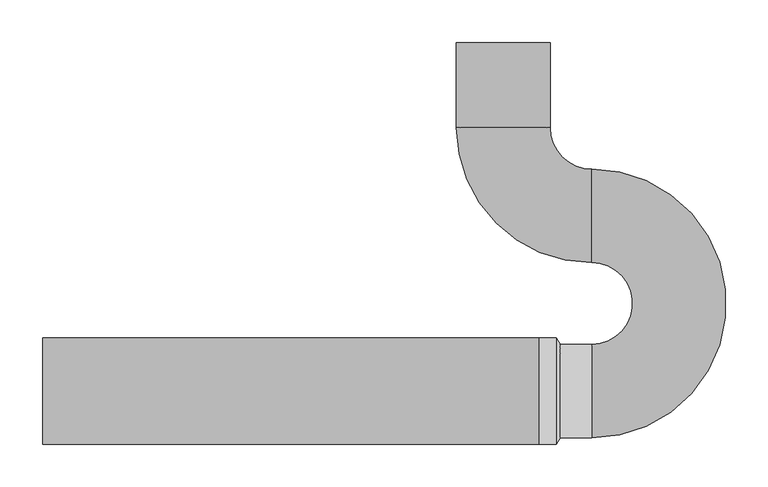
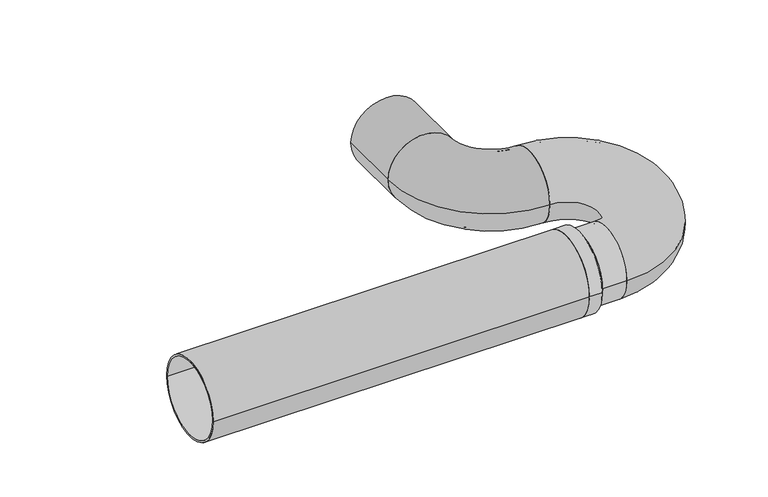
"""IFC4 building model written with IfcOpenShell, lengths in millimetres: pipe fitting geometry, Superdrain Trap : Superdrain Trap."""

import ifcopenshell
import ifcopenshell.guid

model = None  # the IFC model being written
_history = None  # IfcOwnerHistory: only IFC2X3 demands one
_inside = {}  # id of a spatial element -> (the spatial element, [elements in it])
_under = {}  # id of a project, library or spatial element -> (it, [spatial elements below it])
_declared = {}  # id of a project -> (the project, [libraries it declares])
_typed = {}  # id of a type object -> (the type object, [elements of that type])
_made_of = {}  # id of a material, layer set ... -> (it, [elements and type objects made of it])


def new_model(schema):
    """Start an empty IFC model of exactly this schema.

    Asked for "IFC4X3", IfcOpenShell would pick the latest addendum, in which some entities
    have other attributes; the version numbers below select the first issue.
    IFC2X3 requires an IfcOwnerHistory on every rooted entity: one is made here for all.
    """
    global model, _history
    if schema == "IFC4X3":
        model = ifcopenshell.file(schema_version=(4, 3, 0, 0))
    else:
        model = ifcopenshell.file(schema=schema)
    _inside.clear()
    _under.clear()
    _declared.clear()
    _typed.clear()
    _made_of.clear()
    _history = None
    if model.schema == "IFC2X3":
        org = make("IfcOrganization", Name="unknown")
        user = make(
            "IfcPersonAndOrganization",
            ThePerson=make("IfcPerson", FamilyName="unknown"),
            TheOrganization=org,
        )
        app = make(
            "IfcApplication",
            ApplicationDeveloper=org,
            Version="unknown",
            ApplicationFullName="unknown",
            ApplicationIdentifier="unknown",
        )
        _history = make(
            "IfcOwnerHistory",
            OwningUser=user,
            OwningApplication=app,
            ChangeAction="ADDED",
            CreationDate=0,
        )
    return model


def make(cls, **values):
    """One entity of the class cls with the attributes given. An attribute that is None is left unset."""
    return model.create_entity(
        cls, **{name: value for name, value in values.items() if value is not None}
    )


def rooted(cls, **values):
    """An entity with a GlobalId (a new one), such as an element, a storey or a relation."""
    return make(cls, GlobalId=ifcopenshell.guid.new(), OwnerHistory=_history, **values)


def si_unit(unit_type, name, prefix=None):
    """IfcSIUnit, for example si_unit("LENGTHUNIT", "METRE", prefix="MILLI")."""
    return make("IfcSIUnit", UnitType=unit_type, Prefix=prefix, Name=name)


def assignment(units):
    """IfcUnitAssignment: the units of a project."""
    return None if units is None else make("IfcUnitAssignment", Units=units)


def point(xyz):
    """IfcCartesianPoint."""
    return None if xyz is None else make("IfcCartesianPoint", Coordinates=xyz)


def direction(xyz):
    """IfcDirection."""
    return None if xyz is None else make("IfcDirection", DirectionRatios=xyz)


def frame(location, z_axis=None, x_axis=None):
    """IfcAxis2Placement3D, a coordinate frame: its origin and axes. An axis left out is left unset."""
    return make(
        "IfcAxis2Placement3D",
        Location=point(location),
        Axis=direction(z_axis),
        RefDirection=direction(x_axis),
    )


def frame_2d(location, x_axis=None):
    """IfcAxis2Placement2D, a coordinate frame in the plane: its origin and x axis."""
    return make(
        "IfcAxis2Placement2D", Location=point(location), RefDirection=direction(x_axis)
    )


def origin():
    """The frame at (0, 0, 0) with its axes left unset."""
    return frame((0.0, 0.0, 0.0))


def origin_2d():
    """The frame at (0, 0) in the plane with its x axis left unset."""
    return frame_2d((0.0, 0.0))


def place(relative_to, where):
    """IfcLocalPlacement: puts the frame where relative to a parent placement (None: the world)."""
    return make(
        "IfcLocalPlacement", PlacementRelTo=relative_to, RelativePlacement=where
    )


def context(
    kind, dimensions, precision=None, world=None, true_north=None, identifier=None
):
    """IfcGeometricRepresentationContext, for example the 3D "Model" context."""
    return make(
        "IfcGeometricRepresentationContext",
        ContextIdentifier=identifier,
        ContextType=kind,
        CoordinateSpaceDimension=dimensions,
        Precision=precision,
        WorldCoordinateSystem=world,
        TrueNorth=true_north,
    )


def project(units=None, contexts=None):
    """IfcProject with its units and contexts."""
    return rooted(
        "IfcProject",
        Name="project",
        RepresentationContexts=contexts,
        UnitsInContext=assignment(units),
    )


def spatial(cls, under=None, at=None, **own):
    """A site, building, storey or space (cls), placed at a placement, below another one or the project."""
    s = rooted(cls, ObjectPlacement=at, **own)
    if under is not None:
        _under.setdefault(under.id(), (under, []))[1].append(s)
    return s


def polyline(points):
    """IfcPolyline through the points."""
    return make("IfcPolyline", Points=[point(p) for p in points])


def circle_curve(where, radius):
    """IfcCircle in the frame where."""
    return make("IfcCircle", Position=where, Radius=radius)


def ellipse_curve(where, semi_axis1, semi_axis2):
    """IfcEllipse in the frame where."""
    return make(
        "IfcEllipse", Position=where, SemiAxis1=semi_axis1, SemiAxis2=semi_axis2
    )


def trimmed(basis, trim1, trim2, sense, master):
    """IfcTrimmedCurve: the piece of a basis curve between two trims."""
    return make(
        "IfcTrimmedCurve",
        BasisCurve=basis,
        Trim1=trim1,
        Trim2=trim2,
        SenseAgreement=sense,
        MasterRepresentation=master,
    )


def segment(curve, same_sense, transition):
    """IfcCompositeCurveSegment."""
    return make(
        "IfcCompositeCurveSegment",
        Transition=transition,
        SameSense=same_sense,
        ParentCurve=curve,
    )


def composite_curve(segments, self_intersect=None):
    """IfcCompositeCurve: segments joined end to end."""
    return make("IfcCompositeCurve", Segments=segments, SelfIntersect=self_intersect)


def outline(outer, holes=None, kind="AREA"):
    """IfcArbitraryClosedProfileDef: a profile drawn as a closed curve; with holes, ...WithVoids."""
    if holes is None:
        return make("IfcArbitraryClosedProfileDef", ProfileType=kind, OuterCurve=outer)
    return make(
        "IfcArbitraryProfileDefWithVoids",
        ProfileType=kind,
        OuterCurve=outer,
        InnerCurves=holes,
    )


def extrude(swept, where, along, depth):
    """IfcExtrudedAreaSolid: the profile swept, set in the frame where, extruded along a direction by depth."""
    return make(
        "IfcExtrudedAreaSolid",
        SweptArea=swept,
        Position=where,
        ExtrudedDirection=direction(along),
        Depth=depth,
    )


def shape(context_of_items, identifier, shape_type, items):
    """IfcShapeRepresentation: the items that make up one representation, for example the "Body"."""
    return make(
        "IfcShapeRepresentation",
        ContextOfItems=context_of_items,
        RepresentationIdentifier=identifier,
        RepresentationType=shape_type,
        Items=items,
    )


def source(mapping_origin, context_of_items, identifier, shape_type, items):
    """IfcRepresentationMap: a shape defined once, which mapped items show again and again."""
    return make(
        "IfcRepresentationMap",
        MappingOrigin=mapping_origin,
        MappedRepresentation=shape(context_of_items, identifier, shape_type, items),
    )


def transform(
    local_origin,
    x_axis=None,
    y_axis=None,
    z_axis=None,
    scale=None,
    scale2=None,
    scale3=None,
    uniform=True,
):
    """IfcCartesianTransformationOperator3D, or its non-uniform kind. x_axis, y_axis, z_axis: its Axis1, 2, 3."""
    if uniform:
        return make(
            "IfcCartesianTransformationOperator3D",
            Axis1=direction(x_axis),
            Axis2=direction(y_axis),
            LocalOrigin=point(local_origin),
            Scale=scale,
            Axis3=direction(z_axis),
        )
    return make(
        "IfcCartesianTransformationOperator3DnonUniform",
        Axis1=direction(x_axis),
        Axis2=direction(y_axis),
        LocalOrigin=point(local_origin),
        Scale=scale,
        Axis3=direction(z_axis),
        Scale2=scale2,
        Scale3=scale3,
    )


def mapped(mapping_source, mapping_target):
    """IfcMappedItem: shows the shape of a source again, moved by a transform."""
    return make(
        "IfcMappedItem", MappingSource=mapping_source, MappingTarget=mapping_target
    )


def made_of(thing, what):
    """Note that an element or type object is made of a material, layer set ...; save() writes the relation."""
    if what is not None:
        _made_of.setdefault(what.id(), (what, []))[1].append(thing)
    return thing


def element(
    cls,
    number,
    at=None,
    inside=None,
    cuts=None,
    type_object=None,
    material=None,
    context=None,
    identifier="Body",
    shape_type=None,
    held_by="IfcProductDefinitionShape",
    body=None,
    shapes=None,
    **own,
):
    """One element of the class cls, such as IfcWall. Its Tag is "e" and its number.

    at: its placement. inside: the storey or other place that contains it. cuts: it is an
    opening in that element (IfcRelVoidsElement). A single representation is given by context,
    identifier, shape_type and body (its items); several are given by shapes. held_by: the class
    of the entity that holds the representations. save() writes the other relations.
    """
    e = rooted(cls, Tag="e%d" % number, ObjectPlacement=at, **own)
    if body is not None:
        shapes = [shape(context, identifier, shape_type, body)]
    if shapes is not None:
        e.Representation = make(held_by, Representations=shapes)
    if inside is not None:
        _inside.setdefault(inside.id(), (inside, []))[1].append(e)
    if cuts is not None:
        rooted(
            "IfcRelVoidsElement", RelatingBuildingElement=cuts, RelatedOpeningElement=e
        )
    if type_object is not None:
        _typed.setdefault(type_object.id(), (type_object, []))[1].append(e)
    return made_of(e, material)


def aggregate(whole, parts):
    """IfcRelAggregates: a whole, such as a stair, and the parts it consists of."""
    return rooted("IfcRelAggregates", RelatingObject=whole, RelatedObjects=parts)


def save(model, path):
    """Write the relations noted so far, then the file.

    IfcRelAggregates (storeys below a building ...), IfcRelContainedInSpatialStructure (elements
    in a storey), IfcRelDefinesByType, IfcRelAssociatesMaterial and IfcRelDeclares: one each for
    every whole, place, type object, material and project.
    """
    for whole, parts in _under.values():
        aggregate(whole, parts)
    for where, things in _inside.values():
        rooted(
            "IfcRelContainedInSpatialStructure",
            RelatedElements=things,
            RelatingStructure=where,
        )
    for kind, things in _typed.values():
        rooted("IfcRelDefinesByType", RelatedObjects=things, RelatingType=kind)
    for what, things in _made_of.values():
        rooted("IfcRelAssociatesMaterial", RelatedObjects=things, RelatingMaterial=what)
    for by, libraries in _declared.values():
        rooted("IfcRelDeclares", RelatingContext=by, RelatedDefinitions=libraries)
    model.write(path)


def plane_surface(at):
    """IfcPlane: the flat surface through the origin of the frame at, square to its z axis."""
    return make("IfcPlane", Position=at)


def cylinder_surface(at, radius):
    """IfcCylindricalSurface: all points at the distance radius from the z axis of the frame at."""
    return make("IfcCylindricalSurface", Position=at, Radius=radius)


def revolved_surface(curve, axis_point, axis_direction):
    """IfcSurfaceOfRevolution: the curve turned about the line through axis_point along axis_direction."""
    return make(
        "IfcSurfaceOfRevolution",
        SweptCurve=make("IfcArbitraryOpenProfileDef", ProfileType="CURVE", Curve=curve),
        AxisPosition=make("IfcAxis1Placement", Location=point(axis_point), Axis=direction(axis_direction)),
    )


def advanced_brep(points, edges, surfaces, faces):
    """IfcAdvancedBrep: a solid bounded by faces that lie on surfaces and meet in shared edges.

    An edge is (start, end): straight between two places in points (the first is 0);
    or (start, end, curve); or (start, end, curve, False) where it runs against its curve.
    A face is (place in surfaces, loops), or (place, loops, False) where it looks against
    its surface's normal. A loop lists edges by number (the first is 1), with a minus sign
    where the edge is run from its end to its start. The first loop is the outer one.
    """
    corners = [point(p) for p in points]
    vertices = [make("IfcVertexPoint", VertexGeometry=c) for c in corners]
    made = []
    for start, end, *more in edges:
        made.append(
            make(
                "IfcEdgeCurve",
                EdgeStart=vertices[start],
                EdgeEnd=vertices[end],
                EdgeGeometry=more[0] if more else make("IfcPolyline", Points=[corners[start], corners[end]]),
                SameSense=more[1] if len(more) > 1 else True,
            )
        )
    hull = []
    for where, loops, *sense in faces:
        bounds = []
        for j, loop in enumerate(loops):
            ring = [make("IfcOrientedEdge", EdgeElement=made[abs(k) - 1], Orientation=k > 0) for k in loop]
            bounds.append(
                make(
                    "IfcFaceOuterBound" if j == 0 else "IfcFaceBound",
                    Bound=make("IfcEdgeLoop", EdgeList=ring),
                    Orientation=True,
                )
            )
        hull.append(make("IfcAdvancedFace", Bounds=bounds, FaceSurface=surfaces[where], SameSense=sense[0] if sense else True))
    return make("IfcAdvancedBrep", Outer=make("IfcClosedShell", CfsFaces=hull))


def pipe_fitting_2dfee5c5(model_context):
    return source(origin(), model_context, "Body", "SolidModel", [
        advanced_brep(
        [(104.0, 55.0, 0.0), (104.0, -55.0, 0.0), (67.0, -55.0, 0.0), (67.0, 55.0, 0.0), (104.0, 52.0, 0.0), (104.0, -52.0, 0.0), (67.0, 52.0, 0.0), (67.0, -52.0, 0.0), (62.0, 59.5, 0.0), (62.0, -59.5, 0.0), (42.0, 59.5, 0.0), (42.0, -59.5, 0.0), (42.0, 62.5, 0.0), (42.0, -62.5, 0.0), (62.0, 62.5, 0.0), (62.0, -62.5, 0.0)],
        [
            (0, 1, circle_curve(frame((104.0, 0.0, 0.0), z_axis=(-1.0, 0.0, 0.0), x_axis=(0.0, -1.0, 0.0)), 55.0)),
            (1, 2),
            (2, 3, circle_curve(frame((67.0, 0.0, 0.0), z_axis=(1.0, 0.0, 0.0), x_axis=(0.0, -1.0, 0.0)), 55.0)),
            (3, 0),
            (1, 0, circle_curve(frame((104.0, 0.0, 0.0), z_axis=(-1.0, 0.0, 0.0), x_axis=(0.0, -1.0, 0.0)), 55.0)),
            (3, 2, circle_curve(frame((67.0, 0.0, 0.0), z_axis=(1.0, 0.0, 0.0), x_axis=(0.0, -1.0, 0.0)), 55.0)),
            (4, 5, circle_curve(frame((104.0, 0.0, 0.0), z_axis=(-1.0, 0.0, 0.0), x_axis=(0.0, -1.0, 0.0)), 52.0)),
            (5, 1),
            (0, 4),
            (5, 4, circle_curve(frame((104.0, 0.0, 0.0), z_axis=(-1.0, 0.0, 0.0), x_axis=(0.0, -1.0, 0.0)), 52.0)),
            (6, 7, circle_curve(frame((67.0, 0.0, 0.0), z_axis=(-1.0, 0.0, 0.0), x_axis=(0.0, -1.0, 0.0)), 52.0)),
            (7, 5),
            (4, 6),
            (7, 6, circle_curve(frame((67.0, 0.0, 0.0), z_axis=(-1.0, 0.0, 0.0), x_axis=(0.0, -1.0, 0.0)), 52.0)),
            (8, 9, circle_curve(frame((62.0, 0.0, 0.0), z_axis=(-1.0, 0.0, 0.0), x_axis=(0.0, -1.0, 0.0)), 59.5)),
            (9, 7),
            (6, 8),
            (9, 8, circle_curve(frame((62.0, 0.0, 0.0), z_axis=(-1.0, 0.0, 0.0), x_axis=(0.0, -1.0, 0.0)), 59.5)),
            (10, 11, circle_curve(frame((42.0, 0.0, 0.0), z_axis=(-1.0, 0.0, 0.0), x_axis=(0.0, -1.0, 0.0)), 59.5)),
            (11, 9),
            (8, 10),
            (11, 10, circle_curve(frame((42.0, 0.0, 0.0), z_axis=(-1.0, 0.0, 0.0), x_axis=(0.0, -1.0, 0.0)), 59.5)),
            (12, 13, circle_curve(frame((42.0, 0.0, 0.0), z_axis=(-1.0, 0.0, 0.0), x_axis=(0.0, -1.0, 0.0)), 62.5)),
            (13, 11),
            (10, 12),
            (13, 12, circle_curve(frame((42.0, 0.0, 0.0), z_axis=(-1.0, 0.0, 0.0), x_axis=(0.0, -1.0, 0.0)), 62.5)),
            (14, 15, circle_curve(frame((62.0, 0.0, 0.0), z_axis=(-1.0, 0.0, 0.0), x_axis=(0.0, -1.0, 0.0)), 62.5)),
            (15, 13),
            (12, 14),
            (15, 14, circle_curve(frame((62.0, 0.0, 0.0), z_axis=(-1.0, 0.0, 0.0), x_axis=(0.0, -1.0, 0.0)), 62.5)),
            (2, 15),
            (14, 3),
        ],
        [
            cylinder_surface(frame((139.0, 0.0, 0.0), z_axis=(1.0, 0.0, 0.0), x_axis=(0.0, -1.0, 0.0)), 55.0),
            plane_surface(frame((104.0, 0.0, 0.0), z_axis=(1.0, 0.0, 0.0), x_axis=(0.0, -1.0, 0.0))),
            revolved_surface(polyline([(104.0, -52.0, 0.0), (67.0, -52.0, 0.0)]), (139.0, 0.0, 0.0), (1.0, 0.0, 0.0)),
            revolved_surface(polyline([(67.0, -52.0, 0.0), (62.0, -59.5, 0.0)]), (139.0, 0.0, 0.0), (1.0, 0.0, 0.0)),
            revolved_surface(polyline([(62.0, -59.5, 0.0), (42.0, -59.5, 0.0)]), (139.0, 0.0, 0.0), (1.0, 0.0, 0.0)),
            plane_surface(frame((42.0, 0.0, 0.0), z_axis=(-1.0, 0.0, 0.0), x_axis=(0.0, -1.0, 0.0))),
            cylinder_surface(frame((139.0, 0.0, 0.0), z_axis=(1.0, 0.0, 0.0), x_axis=(0.0, -1.0, 0.0)), 62.5),
            revolved_surface(polyline([(62.0, -62.5, 0.0), (67.0, -55.0, 0.0)]), (139.0, 0.0, 0.0), (1.0, 0.0, 0.0)),
        ],
        [
            (0, [[1, 2, 3, 4]]),
            (0, [[5, -4, 6, -2]]),
            (1, [[7, 8, -1, 9]]),
            (1, [[10, -9, -5, -8]]),
            (2, [[11, 12, -7, 13]]),
            (2, [[14, -13, -10, -12]]),
            (3, [[15, 16, -11, 17]]),
            (3, [[18, -17, -14, -16]]),
            (4, [[19, 20, -15, 21]]),
            (4, [[22, -21, -18, -20]]),
            (5, [[23, 24, -19, 25]]),
            (5, [[26, -25, -22, -24]]),
            (6, [[27, 28, -23, 29]]),
            (6, [[30, -29, -26, -28]]),
            (7, [[-3, 31, -27, 32]]),
            (7, [[-6, -32, -30, -31]]),
        ],
    ),
        advanced_brep(
        [(104.0, 151.0, 0.0), (104.0, 261.0, 0.0), (104.0, 154.0, 0.0), (104.0, 258.0, 0.0), (104.0, 55.0, 0.0), (104.0, -55.0, 0.0), (104.0, 52.0, 0.0), (104.0, -52.0, 0.0)],
        [
            (0, 1, circle_curve(frame((104.0, 206.0, 0.0), z_axis=(-1.0, 0.0, 0.0), x_axis=(0.0, 1.0, 0.0)), 55.0)),
            (1, 0, circle_curve(frame((104.0, 206.0, 0.0), z_axis=(-1.0, 0.0, 0.0), x_axis=(0.0, 1.0, 0.0)), 55.0)),
            (2, 3, circle_curve(frame((104.0, 206.0, 0.0), z_axis=(1.0, 0.0, 0.0), x_axis=(0.0, 1.0, 0.0)), 52.0)),
            (3, 2, circle_curve(frame((104.0, 206.0, 0.0), z_axis=(1.0, 0.0, 0.0), x_axis=(0.0, 1.0, 0.0)), 52.0)),
            (4, 5, circle_curve(frame((104.0, 0.0, 0.0), z_axis=(-1.0, 0.0, 0.0), x_axis=(0.0, -1.0, 0.0)), 55.0)),
            (5, 4, circle_curve(frame((104.0, 0.0, 0.0), z_axis=(-1.0, 0.0, 0.0), x_axis=(0.0, -1.0, 0.0)), 55.0)),
            (6, 7, circle_curve(frame((104.0, 0.0, 0.0), z_axis=(1.0, 0.0, 0.0), x_axis=(0.0, -1.0, 0.0)), 52.0)),
            (7, 6, circle_curve(frame((104.0, 0.0, 0.0), z_axis=(1.0, 0.0, 0.0), x_axis=(0.0, -1.0, 0.0)), 52.0)),
            (7, 3, circle_curve(frame((104.0, 103.0, 0.0), z_axis=(0.0, 0.0, 1.0), x_axis=(0.0, 1.0, 0.0)), 155.0)),
            (2, 6, circle_curve(frame((104.0, 103.0, 0.0), z_axis=(0.0, 0.0, -1.0), x_axis=(0.0, 1.0, 0.0)), 51.0)),
            (5, 1, circle_curve(frame((104.0, 103.0, 0.0), z_axis=(0.0, 0.0, 1.0), x_axis=(0.0, 1.0, 0.0)), 158.0)),
            (0, 4, circle_curve(frame((104.0, 103.0, 0.0), z_axis=(0.0, 0.0, -1.0), x_axis=(0.0, 1.0, 0.0)), 48.0)),
        ],
        [
            plane_surface(frame((104.0, 206.0, 0.0), z_axis=(-1.0, 0.0, 0.0), x_axis=(0.0, 0.0, 1.0))),
            plane_surface(frame((104.0, 0.0, 0.0), z_axis=(-1.0, 0.0, 0.0), x_axis=(0.0, 0.0, 1.0))),
            revolved_surface(trimmed(ellipse_curve(frame((104.0, 206.0, 0.0), z_axis=(1.0, 0.0, 0.0), x_axis=(0.0, 1.0, 0.0)), 52.0, 52.0), [point((104.0, 154.0, 0.0))], [point((104.0, 258.0, 0.0))], True, "CARTESIAN"), (104.0, 103.0, 0.0), (0.0, 0.0, -1.0)),
            revolved_surface(trimmed(ellipse_curve(frame((104.0, 206.0, 0.0), z_axis=(1.0, 0.0, 0.0), x_axis=(0.0, 1.0, 0.0)), 52.0, 52.0), [point((104.0, 258.0, 0.0))], [point((104.0, 154.0, 0.0))], True, "CARTESIAN"), (104.0, 103.0, 0.0), (0.0, 0.0, -1.0)),
            revolved_surface(trimmed(ellipse_curve(frame((104.0, 206.0, 0.0), z_axis=(-1.0, 0.0, 0.0), x_axis=(0.0, 1.0, 0.0)), 55.0, 55.0), [point((104.0, 151.0, 0.0))], [point((104.0, 261.0, 0.0))], True, "CARTESIAN"), (104.0, 103.0, 0.0), (0.0, 0.0, -1.0)),
            revolved_surface(trimmed(ellipse_curve(frame((104.0, 206.0, 0.0), z_axis=(-1.0, 0.0, 0.0), x_axis=(0.0, 1.0, 0.0)), 55.0, 55.0), [point((104.0, 261.0, 0.0))], [point((104.0, 151.0, 0.0))], True, "CARTESIAN"), (104.0, 103.0, 0.0), (0.0, 0.0, -1.0)),
        ],
        [
            (0, [[1, 2], [3, 4]]),
            (1, [[5, 6], [7, 8]]),
            (2, [[9, -3, 10, -8]]),
            (3, [[-10, -4, -9, -7]]),
            (4, [[11, -1, 12, -6]]),
            (5, [[-12, -2, -11, -5]]),
        ],
    ),
        advanced_brep(
        [(-55.0, 310.0, 0.0), (55.0, 310.0, 0.0), (-52.0, 310.0, 0.0), (52.0, 310.0, 0.0), (104.0, 151.0, 0.0), (104.0, 261.0, 0.0), (104.0, 154.0, 0.0), (104.0, 258.0, 0.0)],
        [
            (0, 1, circle_curve(frame((0.0, 310.0, 0.0), z_axis=(0.0, 1.0, 0.0), x_axis=(1.0, 0.0, 0.0)), 55.0)),
            (1, 0, circle_curve(frame((0.0, 310.0, 0.0), z_axis=(0.0, 1.0, 0.0), x_axis=(1.0, 0.0, 0.0)), 55.0)),
            (2, 3, circle_curve(frame((0.0, 310.0, 0.0), z_axis=(0.0, -1.0, 0.0), x_axis=(1.0, 0.0, 0.0)), 52.0)),
            (3, 2, circle_curve(frame((0.0, 310.0, 0.0), z_axis=(0.0, -1.0, 0.0), x_axis=(1.0, 0.0, 0.0)), 52.0)),
            (4, 5, circle_curve(frame((104.0, 206.0, 0.0), z_axis=(1.0, 0.0, 0.0), x_axis=(0.0, 1.0, 0.0)), 55.0)),
            (5, 4, circle_curve(frame((104.0, 206.0, 0.0), z_axis=(1.0, 0.0, 0.0), x_axis=(0.0, 1.0, 0.0)), 55.0)),
            (6, 7, circle_curve(frame((104.0, 206.0, 0.0), z_axis=(-1.0, 0.0, 0.0), x_axis=(0.0, 1.0, 0.0)), 52.0)),
            (7, 6, circle_curve(frame((104.0, 206.0, 0.0), z_axis=(-1.0, 0.0, 0.0), x_axis=(0.0, 1.0, 0.0)), 52.0)),
            (5, 1, circle_curve(frame((104.0, 310.0, 0.0), z_axis=(0.0, 0.0, -1.0), x_axis=(-1.0, 0.0, 0.0)), 49.0)),
            (0, 4, circle_curve(frame((104.0, 310.0, 0.0), z_axis=(0.0, 0.0, 1.0), x_axis=(-1.0, 0.0, 0.0)), 159.0)),
            (7, 3, circle_curve(frame((104.0, 310.0, 0.0), z_axis=(0.0, 0.0, -1.0), x_axis=(-1.0, 0.0, 0.0)), 52.0)),
            (2, 6, circle_curve(frame((104.0, 310.0, 0.0), z_axis=(0.0, 0.0, 1.0), x_axis=(-1.0, 0.0, 0.0)), 156.0)),
        ],
        [
            plane_surface(frame((0.0, 310.0, 0.0), z_axis=(0.0, 1.0, 0.0), x_axis=(0.0, 0.0, 1.0))),
            plane_surface(frame((104.0, 206.0, 0.0), z_axis=(1.0, 0.0, 0.0), x_axis=(0.0, 0.0, 1.0))),
            revolved_surface(trimmed(ellipse_curve(frame((0.0, 310.0, 0.0), z_axis=(0.0, 1.0, 0.0), x_axis=(1.0, 0.0, 0.0)), 55.0, 55.0), [point((-55.0, 310.0, 0.0))], [point((55.0, 310.0, 0.0))], True, "CARTESIAN"), (104.0, 310.0, 0.0), (0.0, 0.0, 1.0)),
            revolved_surface(trimmed(ellipse_curve(frame((0.0, 310.0, 0.0), z_axis=(0.0, 1.0, 0.0), x_axis=(1.0, 0.0, 0.0)), 55.0, 55.0), [point((55.0, 310.0, 0.0))], [point((-55.0, 310.0, 0.0))], True, "CARTESIAN"), (104.0, 310.0, 0.0), (0.0, 0.0, 1.0)),
            revolved_surface(trimmed(ellipse_curve(frame((0.0, 310.0, 0.0), z_axis=(0.0, -1.0, 0.0), x_axis=(1.0, 0.0, 0.0)), 52.0, 52.0), [point((-52.0, 310.0, 0.0))], [point((52.0, 310.0, 0.0))], True, "CARTESIAN"), (104.0, 310.0, 0.0), (0.0, 0.0, 1.0)),
            revolved_surface(trimmed(ellipse_curve(frame((0.0, 310.0, 0.0), z_axis=(0.0, -1.0, 0.0), x_axis=(1.0, 0.0, 0.0)), 52.0, 52.0), [point((52.0, 310.0, 0.0))], [point((-52.0, 310.0, 0.0))], True, "CARTESIAN"), (104.0, 310.0, 0.0), (0.0, 0.0, 1.0)),
        ],
        [
            (0, [[1, 2], [3, 4]]),
            (1, [[5, 6], [7, 8]]),
            (2, [[9, -1, 10, -6]]),
            (3, [[-10, -2, -9, -5]]),
            (4, [[11, -3, 12, -8]]),
            (5, [[-12, -4, -11, -7]]),
        ],
    ),
        extrude(outline(composite_curve([segment(trimmed(circle_curve(origin_2d(), 62.5), [point((62.5, 0.0))], [point((-62.5, 0.0))], False, "CARTESIAN"), True, "CONTINUOUS"), segment(trimmed(circle_curve(origin_2d(), 62.5), [point((-62.5, 0.0))], [point((62.5, 0.0))], False, "CARTESIAN"), True, "CONTINUOUS")], self_intersect=False), holes=[composite_curve([segment(trimmed(circle_curve(origin_2d(), 59.5), [point((59.5, 0.0))], [point((-59.5, 0.0))], True, "CARTESIAN"), True, "CONTINUOUS"), segment(trimmed(circle_curve(origin_2d(), 59.5), [point((-59.5, 0.0))], [point((59.5, 0.0))], True, "CARTESIAN"), True, "CONTINUOUS")], self_intersect=False)]), frame((-541.5, 0.0, 0.0), z_axis=(1.0, 0.0, 0.0), x_axis=(0.0, 1.0, 0.0)), (0.0, 0.0, 1.0), 583.5),
        extrude(outline(composite_curve([segment(trimmed(circle_curve(origin_2d(), 55.0), [point((0.0, 55.0))], [point((0.0, -55.0))], False, "CARTESIAN"), True, "CONTINUOUS"), segment(trimmed(circle_curve(origin_2d(), 55.0), [point((0.0, -55.0))], [point((0.0, 55.0))], False, "CARTESIAN"), True, "CONTINUOUS")], self_intersect=False), holes=[composite_curve([segment(trimmed(circle_curve(origin_2d(), 52.0), [point((0.0, 52.0))], [point((0.0, -52.0))], True, "CARTESIAN"), True, "CONTINUOUS"), segment(trimmed(circle_curve(origin_2d(), 52.0), [point((0.0, -52.0))], [point((0.0, 52.0))], True, "CARTESIAN"), True, "CONTINUOUS")], self_intersect=False)]), frame((0.0, 310.0, 0.0), z_axis=(0.0, 1.0, 0.0), x_axis=(0.0, 0.0, 1.0)), (0.0, 0.0, 1.0), 100.0),
    ])


if __name__ == "__main__":
    model = new_model("IFC4")
    model_context = context("Model", 3, world=origin())
    ifc_project = project(units=[si_unit("LENGTHUNIT", "METRE", prefix="MILLI")], contexts=[model_context])
    site = spatial("IfcSite", under=ifc_project)
    building = spatial("IfcBuilding", under=site)
    placement = place(None, origin())
    pipe_fitting_shape = pipe_fitting_2dfee5c5(model_context)
    element("IfcPipeFitting", 1, ObjectType="Superdrain Trap : Superdrain Trap", at=placement, inside=building, context=model_context, shape_type="MappedRepresentation", body=[
        mapped(pipe_fitting_shape, transform((0.0, 0.0, 0.0), x_axis=(1.0, 0.0, 0.0), y_axis=(0.0, 1.0, 0.0), z_axis=(0.0, 0.0, 1.0))),
    ])
    save(model, "model.ifc")
